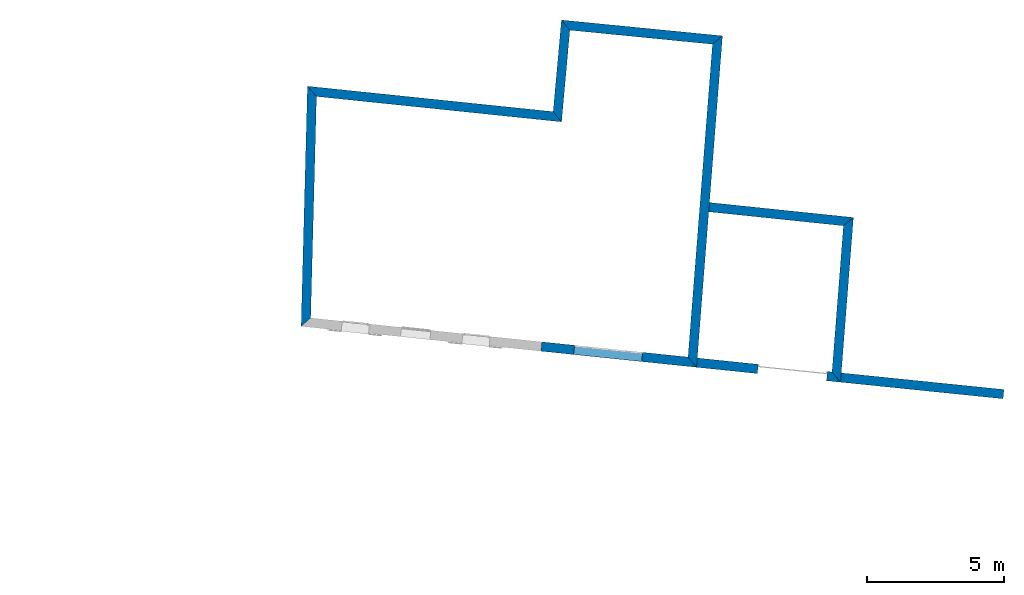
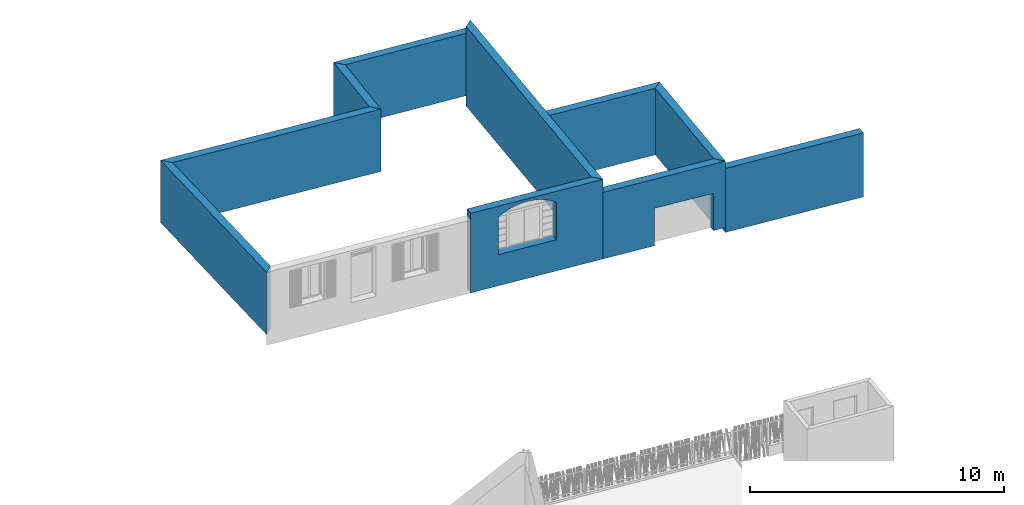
# One storey, part 84 of 171: 10 walls, 2 openings.
"""IFC2X3 building model written with IfcOpenShell, lengths in millimetres."""

from ifc_helpers import new_model, entity, si_unit, converted_unit, derived_unit, money_unit, direction, frame, origin_with_axes, origin_2d_with_axis, place, context, subcontext, project, spatial, polyline, rectangle, outline, extrude, material, layer, layer_set, layer_usage, type_object, element, save


model = new_model("IFC2X3")

# Units and contexts
model_context = context("Model", 3, precision=0.01, world=origin_with_axes(), true_north=direction((0.0, 1.0)))
body_context = subcontext(model_context, "Body", "Model", "MODEL_VIEW")
ifc_project = project(units=[si_unit("LENGTHUNIT", "METRE", prefix="MILLI"), si_unit("AREAUNIT", "SQUARE_METRE"), si_unit("VOLUMEUNIT", "CUBIC_METRE"), converted_unit("PLANEANGLEUNIT", "DEGREE", entity("IfcPlaneAngleMeasure", 0.0174532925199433), si_unit("PLANEANGLEUNIT", "RADIAN"), dimensions=[0, 0, 0, 0, 0, 0, 0]), money_unit("USD"), converted_unit("TIMEUNIT", "Year", entity("IfcTimeMeasure", 31557600.0), si_unit("TIMEUNIT", "SECOND"), dimensions=[0, 0, 1, 0, 0, 0, 0]), si_unit("MASSUNIT", "GRAM", prefix="KILO"), si_unit("THERMODYNAMICTEMPERATUREUNIT", "DEGREE_CELSIUS"), si_unit("LUMINOUSINTENSITYUNIT", "LUMEN"), si_unit("ENERGYUNIT", "JOULE", prefix="MEGA"), derived_unit("THERMALCONDUCTANCEUNIT", [(si_unit("POWERUNIT", "WATT"), 1), (si_unit("LENGTHUNIT", "METRE"), -1), (si_unit("THERMODYNAMICTEMPERATUREUNIT", "KELVIN"), -1)]), derived_unit("SPECIFICHEATCAPACITYUNIT", [(si_unit("ENERGYUNIT", "JOULE"), 1), (si_unit("MASSUNIT", "GRAM", prefix="KILO"), -1), (si_unit("THERMODYNAMICTEMPERATUREUNIT", "KELVIN"), -1)]), derived_unit("MASSDENSITYUNIT", [(si_unit("MASSUNIT", "GRAM", prefix="KILO"), 1), (si_unit("VOLUMEUNIT", "CUBIC_METRE"), -1)])], contexts=[model_context])

# Site, building, storey
site_placement = place(None, origin_with_axes())
site = spatial("IfcSite", under=ifc_project, at=site_placement, Name="Site", CompositionType="ELEMENT")
building_placement = place(site_placement, origin_with_axes())
building = spatial("IfcBuilding", under=site, at=building_placement, Name="Bâtiment", CompositionType="ELEMENT")
storey_placement = place(building_placement, frame((0.0, 0.0, 3000.0), z_axis=(0.0, 0.0, 1.0), x_axis=(1.0, 0.0, 0.0)))
storey = spatial("IfcBuildingStorey", under=building, at=storey_placement, Name="rdc", CompositionType="ELEMENT", Elevation=3000.0)

# Walls
ifc_material = material(Name="Empty Fill 272047960")
ifc_layer = layer(ifc_material, 339.9999999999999, ventilated="UNKNOWN")
ifc_layer_set = layer_set([ifc_layer], Name="Empty Fill 272047960 340")
ifc_layer_usage_1 = layer_usage(ifc_layer_set, "AXIS2", "POSITIVE", 0.0)
wall_type = type_object("IfcWallType", Name="Empty Fill 272047960 340", PredefinedType="NOTDEFINED")
wall_1_placement = place(storey_placement, frame((2257287.22670299, -586875.7295691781, -500.0), z_axis=(0.0, 0.0, 1.0), x_axis=(-0.9946288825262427, 0.1035054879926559, 0.0)))
element("IfcWallStandardCase", 1, at=wall_1_placement, inside=storey, type_object=wall_type, material=ifc_layer_usage_1, Name="Mur-145", context=body_context, shape_type="SweptSolid", body=[
    extrude(outline(polyline([(2.273736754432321e-10, 0.0), (5282.139718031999, 0.0), (5273.416951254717, 339.9999999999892), (331.38099377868, 339.9999999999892), (2.273736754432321e-10, 0.0)])), origin_with_axes(), (0.0, 0.0, 1.0), 3200.0),
])
ifc_layer_usage_2 = layer_usage(ifc_layer_set, "AXIS2", "POSITIVE", 0.0)
wall_2_placement = place(storey_placement, frame((2256817.353417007, -592886.1970297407, -733.9368729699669), z_axis=(0.0, 0.0, 1.0), x_axis=(0.9948304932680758, -0.1015494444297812, 0.0)))
element("IfcWallStandardCase", 2, at=wall_2_placement, inside=storey, type_object=wall_type, material=ifc_layer_usage_2, Name="Mur-144", context=body_context, shape_type="SweptSolid", body=[
    extrude(outline(polyline([(-2.273736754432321e-10, 0.0), (5959.471453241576, 0.0), (5959.471453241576, 340.0000000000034), (-8.062107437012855, 340.0000000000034), (-2.273736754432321e-10, 0.0)])), origin_with_axes(), (0.0, 0.0, 1.0), 3079.489794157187),
])
ifc_layer_usage_3 = layer_usage(ifc_layer_set, "AXIS2", "POSITIVE", 0.0)
wall_3_placement = place(storey_placement, frame((2256817.353417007, -592886.1970297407, -500.0), z_axis=(0.0, 0.0, 1.0), x_axis=(0.07793803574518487, 0.9969582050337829, 0.0)))
element("IfcWallStandardCase", 3, at=wall_3_placement, inside=storey, type_object=wall_type, material=ifc_layer_usage_3, Name="Mur-144", context=body_context, shape_type="SweptSolid", body=[
    extrude(outline(polyline([(0.0, 0.0), (6028.805851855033, 0.0), (5697.424858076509, 340.0000000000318), (348.6766326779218, 339.9999999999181), (0.0, 0.0)])), origin_with_axes(), (0.0, 0.0, 1.0), 3200.0),
])

# Wall, opening
ifc_layer_usage_4 = layer_usage(ifc_layer_set, "AXIS2", "POSITIVE", 0.0)
wall_4_placement = place(storey_placement, frame((2251563.241222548, -592341.9661351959, -500.0), z_axis=(0.0, 0.0, 1.0), x_axis=(0.9946781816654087, -0.1030306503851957, 0.0)))
wall_4 = element("IfcWallStandardCase", 4, at=wall_4_placement, inside=storey, type_object=wall_type, material=ifc_layer_usage_4, Name="Mur-143", context=body_context, shape_type="SweptSolid", body=[
    extrude(outline(polyline([(0.0, 0.0), (5282.223226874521, 0.0), (4933.546594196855, 340.0000000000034), (-8.560349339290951, 340.0000000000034), (0.0, 0.0)])), origin_with_axes(), (0.0, 0.0, 1.0), 3200.0),
])
opening_1_placement = place(wall_4_placement, frame((3498.546069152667, 0.0, 0.0), z_axis=(0.0, 0.0, 1.0), x_axis=(1.0, 0.0, 0.0)))
element("IfcOpeningElement", 5, at=opening_1_placement, cuts=wall_4, Name="Por-286", context=body_context, shape_type="SweptSolid", body=[
    extrude(rectangle(XDim=2536.579724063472, YDim=1795.971414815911, at=origin_2d_with_axis()), frame((0.0, 339.9999999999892, 897.9857074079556), z_axis=(0.0, -1.0, 0.0), x_axis=(1.0, 0.0, 0.0)), (0.0, 0.0, -1.0), 339.9999999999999),
    extrude(rectangle(XDim=2536.579724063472, YDim=1795.971414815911, at=origin_2d_with_axis()), frame((0.0, 339.9999999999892, 897.9857074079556), z_axis=(0.0, 1.0, 0.0), x_axis=(1.0, 0.0, 0.0)), (0.0, 0.0, -1.0), 339.9999999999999),
])

# Walls
ifc_layer_usage_5 = layer_usage(ifc_layer_set, "AXIS2", "NEGATIVE", 0.0)
wall_5_placement = place(storey_placement, frame((2246632.083736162, -579669.7231608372, 0.0), z_axis=(0.0, 0.0, 1.0), x_axis=(0.9951929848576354, -0.09793325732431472, 0.0)))
element("IfcWallStandardCase", 6, at=wall_5_placement, inside=storey, type_object=wall_type, material=ifc_layer_usage_5, Name="Mur-147", context=body_context, shape_type="SweptSolid", body=[
    extrude(outline(polyline([(342.7611404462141, -339.9999999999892), (5572.043413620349, -340.0000000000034), (5905.294234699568, 0.0), (-1.13686837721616e-10, 0.0), (342.7611404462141, -339.9999999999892)])), origin_with_axes(), (0.0, 0.0, 1.0), 3000.0),
])
ifc_layer_usage_6 = layer_usage(ifc_layer_set, "AXIS2", "NEGATIVE", 0.0)
wall_6_placement = place(storey_placement, frame((2246330.30852206, -583013.6345377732, 0.0), z_axis=(0.0, 0.0, 1.0), x_axis=(0.08988090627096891, 0.9959525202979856, 0.0)))
element("IfcWallStandardCase", 7, at=wall_6_placement, inside=storey, type_object=wall_type, material=ifc_layer_usage_6, Name="Mur-146", context=body_context, shape_type="SweptSolid", body=[
    extrude(outline(polyline([(-344.5218266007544, -340.0000000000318), (3014.739652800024, -340.0000000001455), (3357.500793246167, 0.0), (0.0, 0.0), (-344.5218266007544, -340.0000000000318)])), origin_with_axes(), (0.0, 0.0, 1.0), 3000.0),
])

# Wall, opening
ifc_layer_usage_7 = layer_usage(ifc_layer_set, "AXIS2", "NEGATIVE", 0.0)
wall_7_placement = place(storey_placement, frame((2251563.241222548, -592341.9661351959, -500.0), z_axis=(0.0, 0.0, 1.0), x_axis=(-0.994678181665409, 0.103030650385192, 0.0)))
wall_7 = element("IfcWallStandardCase", 8, at=wall_7_placement, inside=storey, type_object=wall_type, material=ifc_layer_usage_7, Name="Mur-143", context=body_context, shape_type="SweptSolid", body=[
    extrude(outline(polyline([(348.6680963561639, -339.9999999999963), (5710.689780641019, -339.9999999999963), (5710.689780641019, 0.0), (0.0, 0.0), (348.6680963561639, -339.9999999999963)])), origin_with_axes(), (0.0, 0.0, 1.0), 3827.624612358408),
])
opening_2_placement = place(wall_7_placement, frame((3262.311113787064, 0.0, 1500.0), z_axis=(0.0, 0.0, 1.0), x_axis=(1.0, 0.0, 0.0)))
element("IfcOpeningElement", 9, at=opening_2_placement, cuts=wall_7, Name="Por-285", context=body_context, shape_type="SweptSolid", body=[
    extrude(outline(polyline([(-1250.0, 0.0), (-1250.0, -1800.0), (-1110.653739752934, -1891.433357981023), (-964.6527194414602, -1971.814582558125), (-812.871740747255, -2040.662049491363), (-656.220237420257, -2097.563241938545), (-495.6368261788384, -2142.177222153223), (-332.0836827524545, -2174.236674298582), (-166.5407767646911, -2193.549506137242), (0.0, -2200.0), (166.5407767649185, -2193.549506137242), (332.0836827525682, -2174.236674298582), (495.6368261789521, -2142.177222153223), (656.2202374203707, -2097.563241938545), (812.8717407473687, -2040.662049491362), (964.6527194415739, -1971.814582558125), (1110.653739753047, -1891.433357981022), (1250.000000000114, -1800.000000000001), (1250.000000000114, 0.0), (-1250.0, 0.0)])), frame((0.0, 339.9999999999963, 0.0), z_axis=(0.0, 1.0, 0.0), x_axis=(1.0, 0.0, 0.0)), (0.0, 0.0, -1.0), 679.9999999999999),
])

# Walls
ifc_layer_usage_8 = layer_usage(ifc_layer_set, "AXIS2", "NEGATIVE", 0.0)
wall_8_placement = place(storey_placement, frame((2237133.958942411, -590847.3537416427, 0.0), z_axis=(0.0, 0.0, 1.0), x_axis=(0.02629848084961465, 0.999654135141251, 0.0)))
element("IfcWallStandardCase", 10, at=wall_8_placement, inside=storey, type_object=wall_type, material=ifc_layer_usage_8, Name="Mur-144", context=body_context, shape_type="SweptSolid", body=[
    extrude(outline(polyline([(314.8062527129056, -340.0000000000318), (8398.238699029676, -340.0000000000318), (8765.448686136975, 1.13686837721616e-10), (0.0, 0.0), (314.8062527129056, -340.0000000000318)])), origin_with_axes(), (0.0, 0.0, 1.0), 3000.0),
])
ifc_layer_usage_9 = layer_usage(ifc_layer_set, "AXIS2", "NEGATIVE", 0.0)
wall_9_placement = place(storey_placement, frame((2237364.476926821, -582084.9367161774, 0.0), z_axis=(0.0, 0.0, 1.0), x_axis=(0.994678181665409, -0.1030306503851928, 0.0)))
element("IfcWallStandardCase", 11, at=wall_9_placement, inside=storey, type_object=wall_type, material=ifc_layer_usage_9, Name="Mur-145", context=body_context, shape_type="SweptSolid", body=[
    extrude(outline(polyline([(367.2099871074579, -340.0000000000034), (9358.323235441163, -339.9999999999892), (9013.80140884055, 0.0), (1.13686837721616e-10, 0.0), (367.2099871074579, -340.0000000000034)])), origin_with_axes(), (0.0, 0.0, 1.0), 3000.0),
])
ifc_layer_usage_10 = layer_usage(ifc_layer_set, "AXIS2", "NEGATIVE", 0.0)
wall_10_placement = place(storey_placement, frame((2252508.991132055, -580248.0478606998, -500.0), z_axis=(0.0, 0.0, 1.0), x_axis=(-0.07796243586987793, -0.9969562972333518, 0.0)))
element("IfcWallStandardCase", 12, at=wall_10_placement, inside=storey, type_object=wall_type, material=ifc_layer_usage_10, Name="Mur-142", context=body_context, shape_type="SweptSolid", body=[
    extrude(outline(polyline([(333.2508210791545, -339.9999999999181), (11782.17285229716, -339.9999999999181), (12130.8409486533, 0.0), (0.0, 0.0), (333.2508210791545, -339.9999999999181)])), origin_with_axes(), (0.0, 0.0, 1.0), 3827.624612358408),
])

save(model, "model.ifc")
